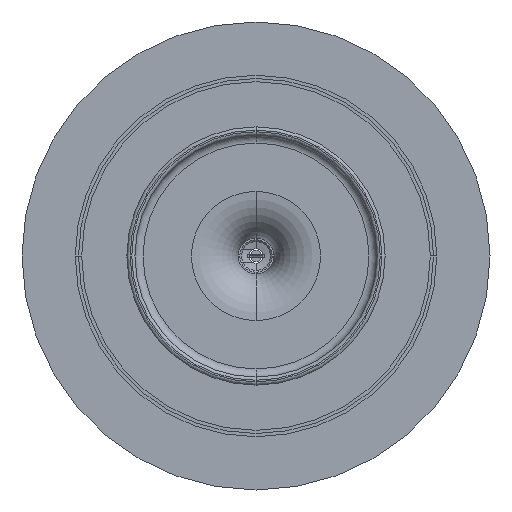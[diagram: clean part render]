
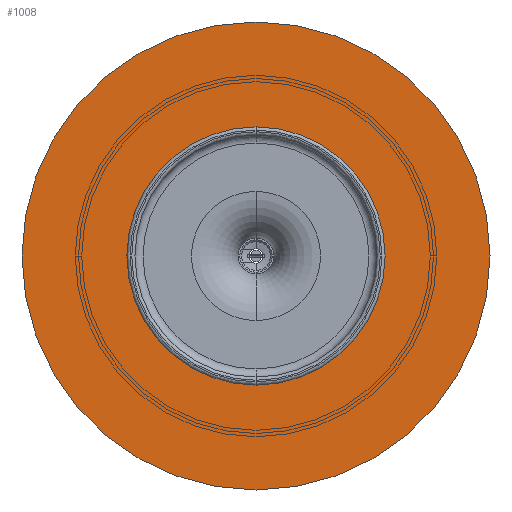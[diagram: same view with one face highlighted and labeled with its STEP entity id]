
A CAD part, front view. The second image highlights one B-rep face of the part: STEP entity #1008.
In plain terms, the highlighted planar face has unit normal (0, -1, 0).
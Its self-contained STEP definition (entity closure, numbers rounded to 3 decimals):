
#39 = DIRECTION ( 'NONE',  ( 0., 0., 1. ) ) ;
#169 = VERTEX_POINT ( 'NONE', #459 ) ;
#188 = ORIENTED_EDGE ( 'NONE', *, *, #3778, .T. ) ;
#228 = CARTESIAN_POINT ( 'NONE',  ( 0., 0., 0. ) ) ;
#406 = CIRCLE ( 'NONE', #4350, 5.1 ) ;
#459 = CARTESIAN_POINT ( 'NONE',  ( -3.033, 0., -4.1 ) ) ;
#522 = AXIS2_PLACEMENT_3D ( 'NONE', #3825, #3881, #1109 ) ;
#532 = ORIENTED_EDGE ( 'NONE', *, *, #3635, .T. ) ;
#615 = CARTESIAN_POINT ( 'NONE',  ( 0., 0., 0. ) ) ;
#758 = EDGE_CURVE ( 'NONE', #2742, #4592, #2395, .T. ) ;
#794 = VERTEX_POINT ( 'NONE', #1390 ) ;
#819 = CARTESIAN_POINT ( 'NONE',  ( -3.033, 0., -4.1 ) ) ;
#1008 = ADVANCED_FACE ( 'NONE', ( #4272, #4705 ), #1642, .F. ) ;
#1101 = DIRECTION ( 'NONE',  ( 0., 0., 1. ) ) ;
#1109 = DIRECTION ( 'NONE',  ( 0., 0., 1. ) ) ;
#1379 = EDGE_CURVE ( 'NONE', #794, #2907, #4799, .T. ) ;
#1390 = CARTESIAN_POINT ( 'NONE',  ( 0., 0., -72.5 ) ) ;
#1520 = LINE ( 'NONE', #2467, #3319 ) ;
#1642 = PLANE ( 'NONE',  #522 ) ;
#1925 = VECTOR ( 'NONE', #5755, 1000. ) ;
#2150 = CARTESIAN_POINT ( 'NONE',  ( 3.033, 0., -4.1 ) ) ;
#2280 = CARTESIAN_POINT ( 'NONE',  ( 0., 0., 0. ) ) ;
#2395 = CIRCLE ( 'NONE', #3996, 5.1 ) ;
#2467 = CARTESIAN_POINT ( 'NONE',  ( -3.033, 0., 4.1 ) ) ;
#2707 = ORIENTED_EDGE ( 'NONE', *, *, #758, .T. ) ;
#2742 = VERTEX_POINT ( 'NONE', #3965 ) ;
#2894 = ORIENTED_EDGE ( 'NONE', *, *, #4583, .F. ) ;
#2907 = VERTEX_POINT ( 'NONE', #4475 ) ;
#2940 = CARTESIAN_POINT ( 'NONE',  ( -3.033, 0., 4.1 ) ) ;
#2965 = EDGE_LOOP ( 'NONE', ( #532, #188, #2707, #3726 ) ) ;
#2995 = DIRECTION ( 'NONE',  ( 0., 0., 1. ) ) ;
#3206 = LINE ( 'NONE', #819, #1925 ) ;
#3319 = VECTOR ( 'NONE', #4403, 1000. ) ;
#3408 = CARTESIAN_POINT ( 'NONE',  ( 0., 0., 0. ) ) ;
#3510 = CIRCLE ( 'NONE', #4563, 72.5 ) ;
#3635 = EDGE_CURVE ( 'NONE', #169, #4650, #406, .T. ) ;
#3658 = DIRECTION ( 'NONE',  ( 0., 1., 0. ) ) ;
#3726 = ORIENTED_EDGE ( 'NONE', *, *, #4860, .T. ) ;
#3778 = EDGE_CURVE ( 'NONE', #4650, #2742, #1520, .T. ) ;
#3825 = CARTESIAN_POINT ( 'NONE',  ( 0., 0., 0. ) ) ;
#3881 = DIRECTION ( 'NONE',  ( 0., 1., 0. ) ) ;
#3965 = CARTESIAN_POINT ( 'NONE',  ( 3.033, 0., 4.1 ) ) ;
#3996 = AXIS2_PLACEMENT_3D ( 'NONE', #615, #3658, #4657 ) ;
#4073 = DIRECTION ( 'NONE',  ( 0., 1., 0. ) ) ;
#4132 = ORIENTED_EDGE ( 'NONE', *, *, #1379, .F. ) ;
#4261 = DIRECTION ( 'NONE',  ( 0., 1., 0. ) ) ;
#4272 = FACE_OUTER_BOUND ( 'NONE', #5086, .T. ) ;
#4350 = AXIS2_PLACEMENT_3D ( 'NONE', #2280, #4073, #39 ) ;
#4403 = DIRECTION ( 'NONE',  ( 1., 0., 0. ) ) ;
#4475 = CARTESIAN_POINT ( 'NONE',  ( 0., 0., 72.5 ) ) ;
#4563 = AXIS2_PLACEMENT_3D ( 'NONE', #3408, #5662, #2995 ) ;
#4583 = EDGE_CURVE ( 'NONE', #2907, #794, #3510, .T. ) ;
#4592 = VERTEX_POINT ( 'NONE', #2150 ) ;
#4650 = VERTEX_POINT ( 'NONE', #2940 ) ;
#4657 = DIRECTION ( 'NONE',  ( 0., 0., 1. ) ) ;
#4705 = FACE_BOUND ( 'NONE', #2965, .T. ) ;
#4799 = CIRCLE ( 'NONE', #5449, 72.5 ) ;
#4860 = EDGE_CURVE ( 'NONE', #4592, #169, #3206, .T. ) ;
#5086 = EDGE_LOOP ( 'NONE', ( #4132, #2894 ) ) ;
#5449 = AXIS2_PLACEMENT_3D ( 'NONE', #228, #4261, #1101 ) ;
#5662 = DIRECTION ( 'NONE',  ( 0., 1., 0. ) ) ;
#5755 = DIRECTION ( 'NONE',  ( -1., 0., 0. ) ) ;
